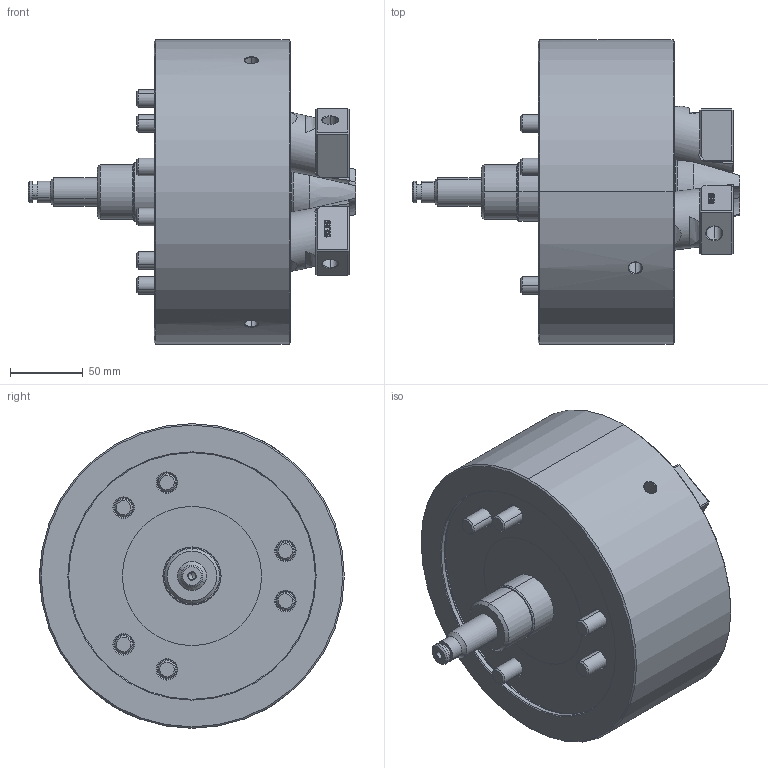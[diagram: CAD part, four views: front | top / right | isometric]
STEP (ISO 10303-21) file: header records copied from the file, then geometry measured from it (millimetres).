
FILE_DESCRIPTION (( 'STEP AP214' ), '1' );
FILE_NAME ('PUE08_OC.STEP', '2019-12-02T03:08:50', ( '' ), ( '' ), 'SwSTEP 2.0', 'SolidWorks 2017', '' );
FILE_SCHEMA (( 'AUTOMOTIVE_DESIGN' ));
Length unit declared in the file: millimetre
Products named in the file (4): 結合; 0030106012; 61P458072; PUE08_OC
Assembly tree (7 placements, depth 2):
  PUE08_OC
    61P458072  x3
    0030106012  x3
    結合
Bounding box: 225.8 x 210 x 210 mm (x, y, z)
Volume: 3359459.9 mm3; surface area: 239643.1 mm2
Topology: 7 solids, 7 shells, 1623 faces, 4033 edges, 2517 vertices
Faces by surface type: plane 669, bspline 396, cone 278, cylinder 241, torus 39
Entity records: 47565 total; most frequent: CARTESIAN_POINT 19887, ORIENTED_EDGE 6010, DIRECTION 4963, EDGE_CURVE 3005, VERTEX_POINT 1889, AXIS2_PLACEMENT_3D 1687, LINE 1589, VECTOR 1589
